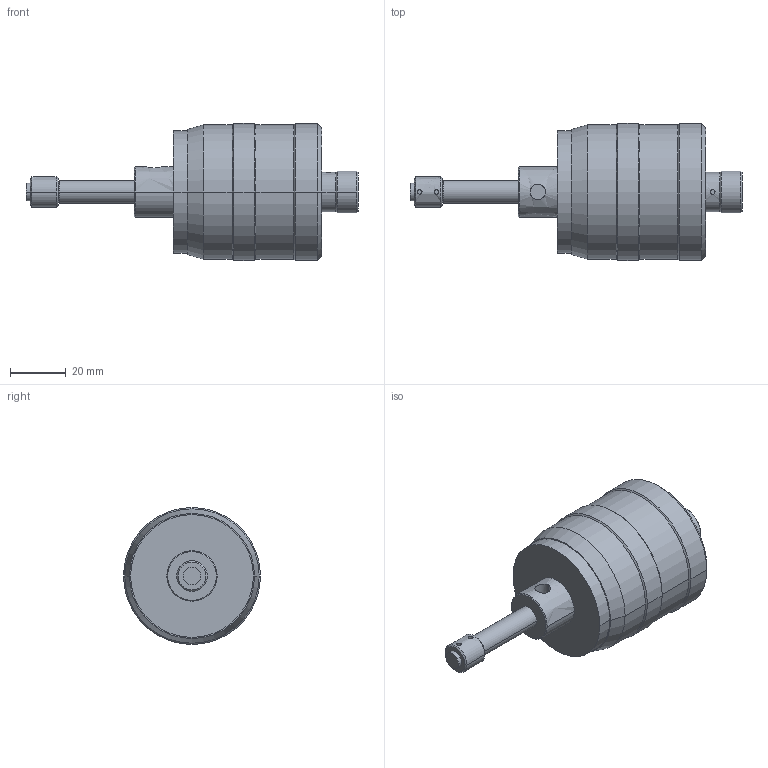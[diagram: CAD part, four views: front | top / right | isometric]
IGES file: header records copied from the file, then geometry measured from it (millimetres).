
Start section: Elysium IGES Interface
Global section: file name: 70HR:\01_商品設計部\01_MK外ﾃｰﾏ(U)\15_MH_3D\IGESﾌｧｲﾙ\152-390_MHG1-25X2.igs; native system: Creo Elements/Direct Modeling 18.1B  29-Sep-2012; preprocessor: Creo Element/Direct IGES_3D V2.2; author: Unknown; organization: Unknown; date: 20140624.085635; units: millimetre
Bounding box: 118.7 x 49 x 49 mm (x, y, z)
Volume: 103029.5 mm3; surface area: 14050.4 mm2
Topology: 1 solids, 1 shells, 64 faces, 131 edges, 74 vertices
Faces by surface type: bspline 64
